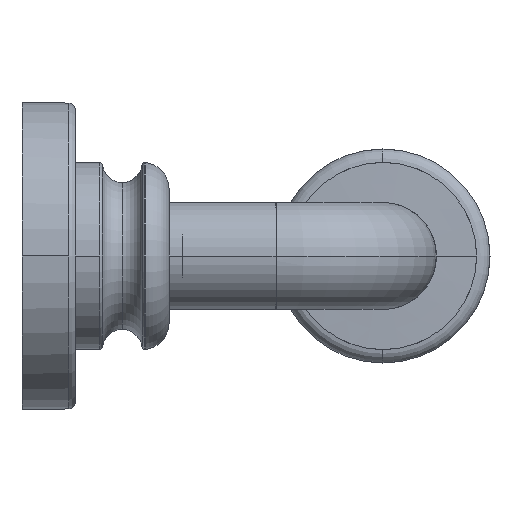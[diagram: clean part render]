
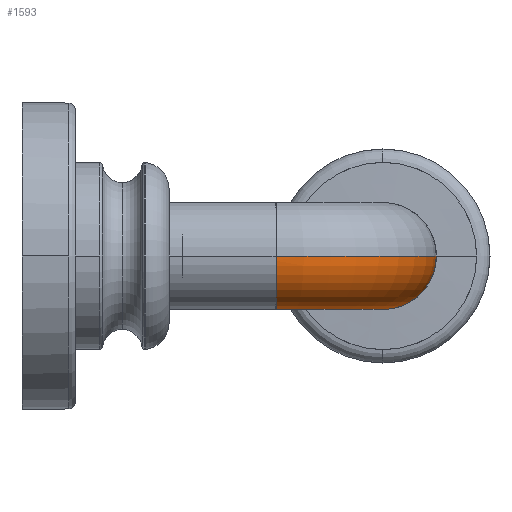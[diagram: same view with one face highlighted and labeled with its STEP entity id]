
A CAD part, left-side view. The second image highlights one B-rep face of the part: STEP entity #1593.
In plain terms, the highlighted toroidal (fillet/blend) face has major radius 8 mm and minor radius 4 mm.
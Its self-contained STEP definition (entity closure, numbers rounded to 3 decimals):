
#705 = VERTEX_POINT( '', #2057 );
#795 = EDGE_CURVE( '', #1833, #1507, #2161, .T. );
#889 = EDGE_CURVE( '', #705, #1855, #2262, .T. );
#921 = VERTEX_POINT( '', #2297 );
#1053 = EDGE_CURVE( '', #1505, #1507, #2438, .T. );
#1113 = EDGE_CURVE( '', #1833, #921, #2502, .T. );
#1235 = VERTEX_POINT( '', #2642 );
#1505 = VERTEX_POINT( '', #2941 );
#1507 = VERTEX_POINT( '', #2943 );
#1593 = ADVANCED_FACE( '', ( #3036 ), #3037, .T. );
#1633 = EDGE_CURVE( '', #921, #1235, #3085, .T. );
#1669 = EDGE_CURVE( '', #1505, #705, #3126, .T. );
#1833 = VERTEX_POINT( '', #3305 );
#1855 = VERTEX_POINT( '', #3328 );
#1903 = EDGE_CURVE( '', #1235, #1855, #3384, .T. );
#2057 = CARTESIAN_POINT( '', ( 8., -26.99, -4. ) );
#2161 = CIRCLE( '', #3673, 4. );
#2262 = CIRCLE( '', #3801, 4. );
#2297 = CARTESIAN_POINT( '', ( 0., -19., -4. ) );
#2438 = CIRCLE( '', #4073, 4. );
#2502 = B_SPLINE_CURVE_WITH_KNOTS( '', 3, ( #4156, #4157, #4158, #4159, #4160, #4161 ), .UNSPECIFIED., .F., .F., ( 4, 2, 4 ), ( -0.008, 0., 0.012 ), .UNSPECIFIED. );
#2642 = CARTESIAN_POINT( '', ( -4., -19., 0. ) );
#2941 = CARTESIAN_POINT( '', ( 8., -22.98, 0. ) );
#2943 = CARTESIAN_POINT( '', ( 4., -18.98, 0. ) );
#3036 = FACE_OUTER_BOUND( '', #4827, .T. );
#3037 = TOROIDAL_SURFACE( '', #4828, 8., 4. );
#3085 = B_SPLINE_CURVE_WITH_KNOTS( '', 3, ( #4888, #4889, #4890, #4891, #4892, #4893, #4894, #4895, #4896, #4897, #4898, #4899, #4900, #4901, #4902, #4903, #4904, #4905, #4906, #4907, #4908, #4909, #4910, #4911, #4912, #4913, #4914, #4915, #4916, #4917, #4918, #4919, #4920, #4921, #4922 ), .UNSPECIFIED., .F., .F., ( 4, 2, 2, 2, 2, 2, 2, 2, 3, 2, 2, 2, 2, 2, 2, 2, 4 ), ( 17.772, 18.512, 19.253, 19.993, 20.734, 21.474, 22.214, 22.955, 23.695, 24.436, 25.176, 25.917, 26.657, 27.398, 28.138, 28.879, 29.619 ), .UNSPECIFIED. );
#3126 = CIRCLE( '', #4971, 4. );
#3305 = CARTESIAN_POINT( '', ( 0., -18.98, -4. ) );
#3328 = CARTESIAN_POINT( '', ( 8., -30.98, 0. ) );
#3384 = CIRCLE( '', #5299, 12. );
#3673 = AXIS2_PLACEMENT_3D( '', #5669, #5670, #5671 );
#3801 = AXIS2_PLACEMENT_3D( '', #5792, #5793, #5794 );
#4073 = AXIS2_PLACEMENT_3D( '', #6022, #6023, #6024 );
#4156 = CARTESIAN_POINT( '', ( 0., -18.98, -4. ) );
#4157 = CARTESIAN_POINT( '', ( 0., -18.983, -4. ) );
#4158 = CARTESIAN_POINT( '', ( 0., -18.985, -4. ) );
#4159 = CARTESIAN_POINT( '', ( 0., -18.992, -4. ) );
#4160 = CARTESIAN_POINT( '', ( 0., -18.996, -4. ) );
#4161 = CARTESIAN_POINT( '', ( 0., -19., -4. ) );
#4827 = EDGE_LOOP( '', ( #6810, #6811, #6812, #6813, #6814, #6815, #6816 ) );
#4828 = AXIS2_PLACEMENT_3D( '', #6817, #6818, #6819 );
#4888 = CARTESIAN_POINT( '', ( 0., -19., -4. ) );
#4889 = CARTESIAN_POINT( '', ( -0.247, -19., -4. ) );
#4890 = CARTESIAN_POINT( '', ( -0.516, -19., -3.976 ) );
#4891 = CARTESIAN_POINT( '', ( -1.044, -19., -3.871 ) );
#4892 = CARTESIAN_POINT( '', ( -1.303, -19., -3.79 ) );
#4893 = CARTESIAN_POINT( '', ( -1.759, -19., -3.601 ) );
#4894 = CARTESIAN_POINT( '', ( -1.998, -19., -3.475 ) );
#4895 = CARTESIAN_POINT( '', ( -2.446, -19., -3.176 ) );
#4896 = CARTESIAN_POINT( '', ( -2.654, -19., -3.003 ) );
#4897 = CARTESIAN_POINT( '', ( -3.003, -19., -2.654 ) );
#4898 = CARTESIAN_POINT( '', ( -3.176, -19., -2.446 ) );
#4899 = CARTESIAN_POINT( '', ( -3.475, -19., -1.998 ) );
#4900 = CARTESIAN_POINT( '', ( -3.601, -19., -1.759 ) );
#4901 = CARTESIAN_POINT( '', ( -3.79, -19., -1.303 ) );
#4902 = CARTESIAN_POINT( '', ( -3.871, -19., -1.044 ) );
#4903 = CARTESIAN_POINT( '', ( -3.976, -19., -0.516 ) );
#4904 = CARTESIAN_POINT( '', ( -4., -19., -0.247 ) );
#4905 = CARTESIAN_POINT( '', ( -4., -19., 0. ) );
#4906 = CARTESIAN_POINT( '', ( -4., -19., 0.247 ) );
#4907 = CARTESIAN_POINT( '', ( -3.976, -19., 0.516 ) );
#4908 = CARTESIAN_POINT( '', ( -3.871, -19., 1.044 ) );
#4909 = CARTESIAN_POINT( '', ( -3.79, -19., 1.303 ) );
#4910 = CARTESIAN_POINT( '', ( -3.601, -19., 1.759 ) );
#4911 = CARTESIAN_POINT( '', ( -3.475, -19., 1.998 ) );
#4912 = CARTESIAN_POINT( '', ( -3.176, -19., 2.446 ) );
#4913 = CARTESIAN_POINT( '', ( -3.003, -19., 2.654 ) );
#4914 = CARTESIAN_POINT( '', ( -2.654, -19., 3.003 ) );
#4915 = CARTESIAN_POINT( '', ( -2.446, -19., 3.176 ) );
#4916 = CARTESIAN_POINT( '', ( -1.998, -19., 3.475 ) );
#4917 = CARTESIAN_POINT( '', ( -1.759, -19., 3.601 ) );
#4918 = CARTESIAN_POINT( '', ( -1.303, -19., 3.79 ) );
#4919 = CARTESIAN_POINT( '', ( -1.044, -19., 3.871 ) );
#4920 = CARTESIAN_POINT( '', ( -0.516, -19., 3.976 ) );
#4921 = CARTESIAN_POINT( '', ( -0.247, -19., 4. ) );
#4922 = CARTESIAN_POINT( '', ( 0., -19., 4. ) );
#4971 = AXIS2_PLACEMENT_3D( '', #6973, #6974, #6975 );
#5299 = AXIS2_PLACEMENT_3D( '', #7329, #7330, #7331 );
#5669 = CARTESIAN_POINT( '', ( 0., -18.98, 0. ) );
#5670 = DIRECTION( '', ( 0., -1., 0. ) );
#5671 = DIRECTION( '', ( -1., 0., 0. ) );
#5792 = CARTESIAN_POINT( '', ( 8., -26.98, 0. ) );
#5793 = DIRECTION( '', ( -1., 0., 0. ) );
#5794 = DIRECTION( '', ( 0., 1., 0. ) );
#6022 = CARTESIAN_POINT( '', ( 8., -18.98, 0. ) );
#6023 = DIRECTION( '', ( 0., 0., -1. ) );
#6024 = DIRECTION( '', ( 1., 0., 0. ) );
#6810 = ORIENTED_EDGE( '', *, *, #1903, .F. );
#6811 = ORIENTED_EDGE( '', *, *, #1633, .F. );
#6812 = ORIENTED_EDGE( '', *, *, #1113, .F. );
#6813 = ORIENTED_EDGE( '', *, *, #795, .T. );
#6814 = ORIENTED_EDGE( '', *, *, #1053, .F. );
#6815 = ORIENTED_EDGE( '', *, *, #1669, .T. );
#6816 = ORIENTED_EDGE( '', *, *, #889, .T. );
#6817 = CARTESIAN_POINT( '', ( 8., -18.98, 0. ) );
#6818 = DIRECTION( '', ( 0., 0., 1. ) );
#6819 = DIRECTION( '', ( 1., 0., 0. ) );
#6973 = CARTESIAN_POINT( '', ( 8., -26.98, 0. ) );
#6974 = DIRECTION( '', ( -1., 0., 0. ) );
#6975 = DIRECTION( '', ( 0., 1., 0. ) );
#7329 = CARTESIAN_POINT( '', ( 8., -18.98, 0. ) );
#7330 = DIRECTION( '', ( 0., 0., 1. ) );
#7331 = DIRECTION( '', ( 1., 0., 0. ) );
